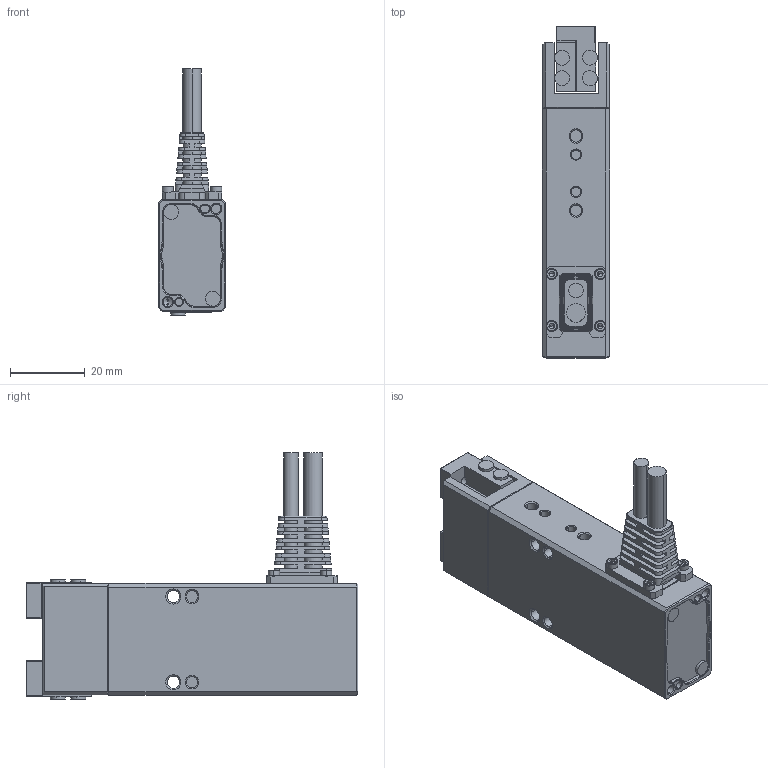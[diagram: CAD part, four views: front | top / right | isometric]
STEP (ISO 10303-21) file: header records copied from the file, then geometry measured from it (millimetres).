
FILE_DESCRIPTION (( 'STEP AP214' ), '1' );
FILE_NAME ('PGEA-【2-10】【15-10】-O-S_简易模型_20250624.STEP', '2025-06-24T09:26:48', ( '' ), ( '' ), 'SwSTEP 2.0', 'SolidWorks 2020', '' );
FILE_SCHEMA (( 'AUTOMOTIVE_DESIGN' ));
Length unit declared in the file: millimetre
Products named in the file (12): GB_FASTENER_SCREWS_HSHCS M1.6X8-N_GB_FASTENER_SCREWS_HSHCS M1.6X8-N; 葩璃 PGEA-15-10耜堤菁裔; 葩璃 ______; 葩璃 葩璃 PGEA-15-10U璃^葩璃 ______; 复件 _____________0^PGEA-【2-10】【15-10】-O-S_简易模型_20250331; PGEA-【2-10】【15-10】-O-S_简易模型_20250624; 葩璃 PGEA-15-10厙帣啣; 复件 M2薄头螺丝-3-4头-0.8厚^复件 _____________0_PGEA-【2-10】【15-10】-O-S_简易模型_20250331; 葩璃 葩璃 PGEA-15-10價釱; 复件 M2薄头螺丝-3-4头-0.8厚^复件 ______; 葩璃 15S邧盄厙帣; 复件 复件 PGEA-15-10侧出外壳^复件 ______
Assembly tree (19 placements, depth 3):
  PGEA-【2-10】【15-10】-O-S_简易模型_20250624
    葩璃 ______
      葩璃 15S邧盄厙帣
      葩璃 葩璃 PGEA-15-10U璃^葩璃 ______
      复件 复件 PGEA-15-10侧出外壳^复件 ______
      葩璃 PGEA-15-10耜堤菁裔
      复件 M2薄头螺丝-3-4头-0.8厚^复件 ______  x2
      葩璃 PGEA-15-10厙帣啣
      GB_FASTENER_SCREWS_HSHCS M1.6X8-N_GB_FASTENER_SCREWS_HSHCS M1.6X8-N  x4
    复件 _____________0^PGEA-【2-10】【15-10】-O-S_简易模型_20250331  x2
      葩璃 葩璃 PGEA-15-10價釱
      复件 M2薄头螺丝-3-4头-0.8厚^复件 _____________0_PGEA-【2-10】【15-10】-O-S_简易模型_20250331
Bounding box: 18 x 89 x 66 mm (x, y, z)
Volume: 46420.7 mm3; surface area: 19158.8 mm2
Topology: 21 solids, 25 shells, 774 faces, 1844 edges, 1146 vertices
Faces by surface type: plane 395, cylinder 251, cone 104, bspline 16, torus 8
Entity records: 18503 total; most frequent: CARTESIAN_POINT 3553, DIRECTION 3005, ORIENTED_EDGE 2932, EDGE_CURVE 1466, AXIS2_PLACEMENT_3D 1035, VECTOR 935, LINE 935, VERTEX_POINT 923
